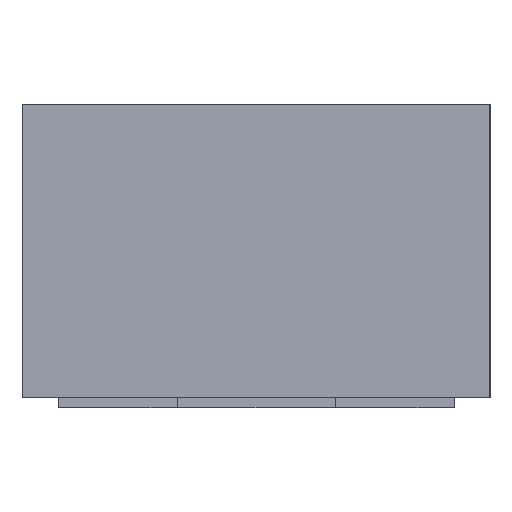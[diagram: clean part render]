
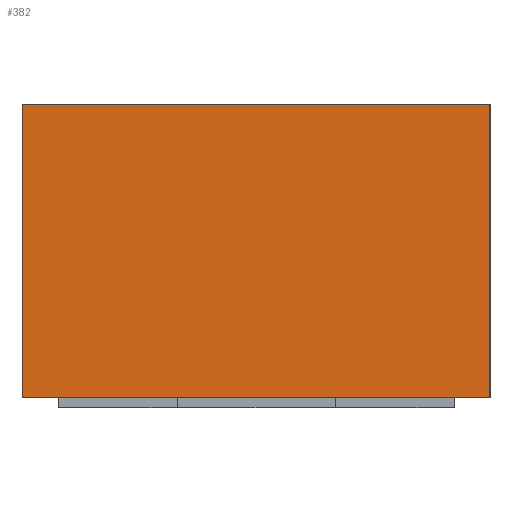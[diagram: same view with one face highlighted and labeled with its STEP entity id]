
A CAD part, left-side view. The second image highlights one B-rep face of the part: STEP entity #382.
In plain terms, the highlighted planar face has unit normal (-1, 0, 0).
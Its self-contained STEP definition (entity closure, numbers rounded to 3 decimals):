
#231=CARTESIAN_POINT('',(-0.495,0.295,0.));
#232=VERTEX_POINT('',#231);
#239=CARTESIAN_POINT('',(-0.495,0.295,0.37));
#240=VERTEX_POINT('',#239);
#241=CARTESIAN_POINT('',(-0.495,0.295,0.37));
#242=DIRECTION('',(0.,0.,-1.));
#243=VECTOR('',#242,0.37);
#244=LINE('',#241,#243);
#245=EDGE_CURVE('',#240,#232,#244,.T.);
#287=CARTESIAN_POINT('',(-0.495,-0.295,0.37));
#288=VERTEX_POINT('',#287);
#295=CARTESIAN_POINT('',(-0.495,-0.295,0.));
#296=VERTEX_POINT('',#295);
#297=CARTESIAN_POINT('',(-0.495,-0.295,0.37));
#298=DIRECTION('',(0.,0.,-1.));
#299=VECTOR('',#298,0.37);
#300=LINE('',#297,#299);
#301=EDGE_CURVE('',#288,#296,#300,.T.);
#339=CARTESIAN_POINT('',(-0.495,-0.295,0.37));
#340=DIRECTION('',(0.,1.,0.));
#341=VECTOR('',#340,0.59);
#342=LINE('',#339,#341);
#343=EDGE_CURVE('',#288,#240,#342,.T.);
#366=CARTESIAN_POINT('',(-0.495,-0.,0.37));
#367=DIRECTION('',(-1.,0.,0.));
#368=DIRECTION('',(0.,0.,1.));
#369=AXIS2_PLACEMENT_3D('',#366,#367,#368);
#370=PLANE('',#369);
#371=CARTESIAN_POINT('',(-0.495,-0.295,0.));
#372=DIRECTION('',(0.,1.,0.));
#373=VECTOR('',#372,0.59);
#374=LINE('',#371,#373);
#375=EDGE_CURVE('',#296,#232,#374,.T.);
#376=ORIENTED_EDGE('',*,*,#375,.F.);
#377=ORIENTED_EDGE('',*,*,#301,.F.);
#378=ORIENTED_EDGE('',*,*,#343,.T.);
#379=ORIENTED_EDGE('',*,*,#245,.T.);
#380=EDGE_LOOP('',(#376,#377,#378,#379));
#381=FACE_BOUND('',#380,.T.);
#382=ADVANCED_FACE('',(#381),#370,.T.);
